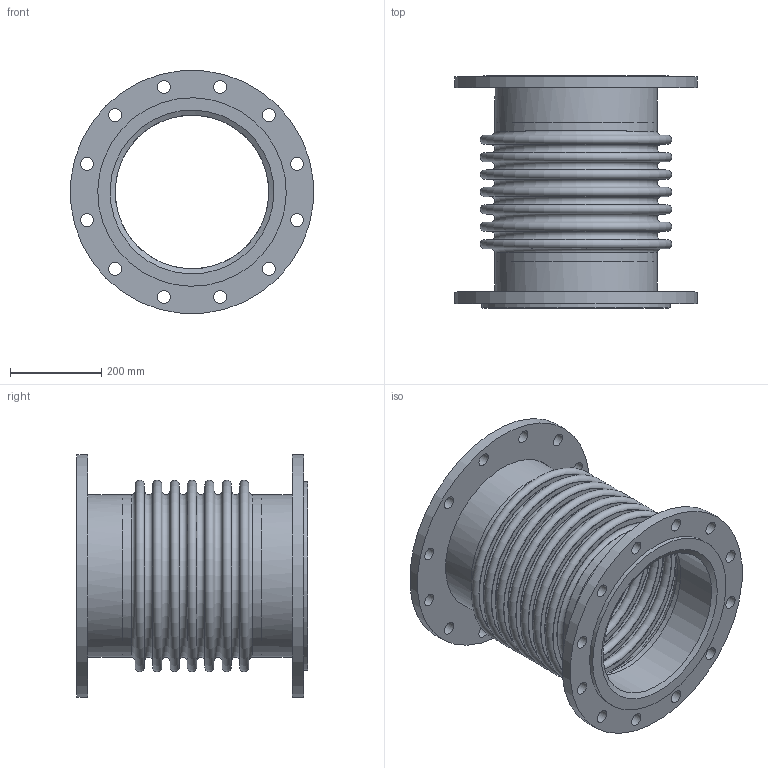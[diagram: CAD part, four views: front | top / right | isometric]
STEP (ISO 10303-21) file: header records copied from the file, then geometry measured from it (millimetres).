
FILE_DESCRIPTION(/* description */ (''),/* implementation_level */ '2;1');
FILE_NAME(/* name */ '\\Mleuckthor2\cad-proe_solids\WEBSITE FILES 05.22.13\STEP\EFL250 ASA150LB\EFL250-14x20 (ASA150LB).stp',/* time_stamp */ '2016-05-16T19:26:31-04:00',/* author */ ('rramoutar'),/* organization */ ('Mason Industries Inc.'),/* preprocessor_version */ 'ST-DEVELOPER v15.6',/* originating_system */ 'Autodesk Inventor 2015',/* authorisation */ '');
FILE_SCHEMA (('CONFIG_CONTROL_DESIGN'));
Length unit declared in the file: inch
Products named in the file (1): EFL250-14x20-ASA150LB
Bounding box: 531.37 x 508 x 531.37 mm (x, y, z)
Volume: 8813116.8 mm3; surface area: 2670259.3 mm2
Topology: 1 solids, 1 shells, 109 faces, 224 edges, 154 vertices
Faces by surface type: plane 39, cylinder 37, torus 30, cone 3
Full cylindrical faces by diameter (mm): 28.575 x24, 336.55 x2, 353.568 x2, 355.6 x2, 358.775 x3, 412.75 x2, 533.4 x2
Entity records: 2673 total; most frequent: DIRECTION 486, CARTESIAN_POINT 376, EDGE_LOOP 266, ORIENTED_EDGE 266, AXIS2_PLACEMENT_3D 243, FACE_BOUND 157, CIRCLE 133, VERTEX_POINT 133
